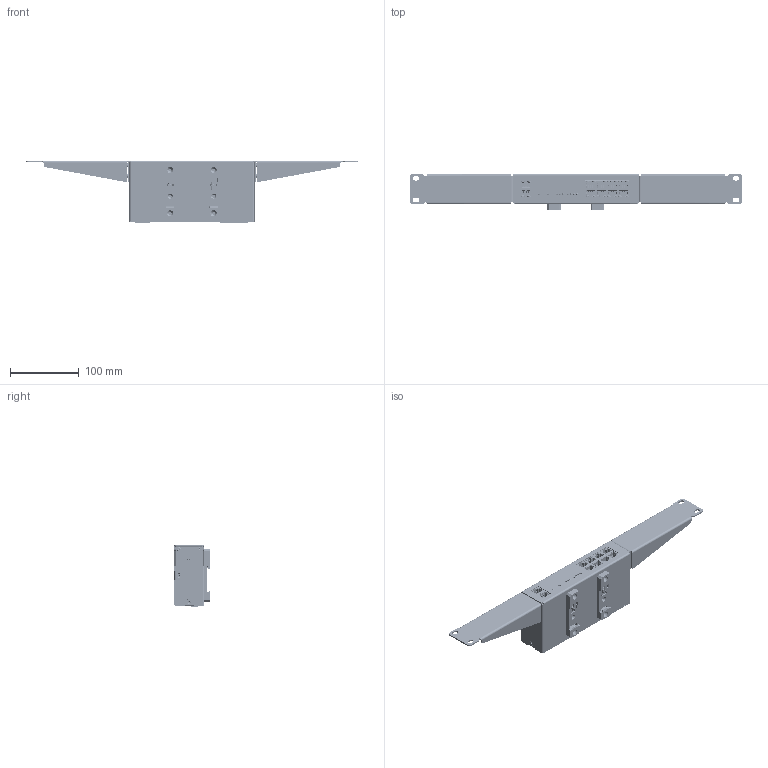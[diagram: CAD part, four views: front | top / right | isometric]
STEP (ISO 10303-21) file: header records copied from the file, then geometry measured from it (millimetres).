
FILE_DESCRIPTION (( 'STEP AP203' ), '1' );
FILE_NAME ('MASTER-810.STEP', '2018-08-30T21:35:50', ( '' ), ( '' ), 'SwSTEP 2.0', 'SolidWorks 2016', '' );
FILE_SCHEMA (( 'CONFIG_CONTROL_DESIGN' ));
Products named in the file (2): MASTER-810
Bounding box: 482.27 x 52 x 91.49 mm (x, y, z)
Surface area: 242432.6 mm2 (no closed solid volume)
Topology: 0 solids, 148 shells, 9893 faces, 29031 edges, 20230 vertices
Faces by surface type: plane 7123, cylinder 1606, bspline 695, cone 399, torus 56, sphere 14
Entity records: 402219 total; most frequent: CARTESIAN_POINT 148680, ORIENTED_EDGE 57818, DIRECTION 43702, EDGE_CURVE 28916, VERTEX_POINT 20229, VECTOR 19674, LINE 19674, AXIS2_PLACEMENT_3D 12014
